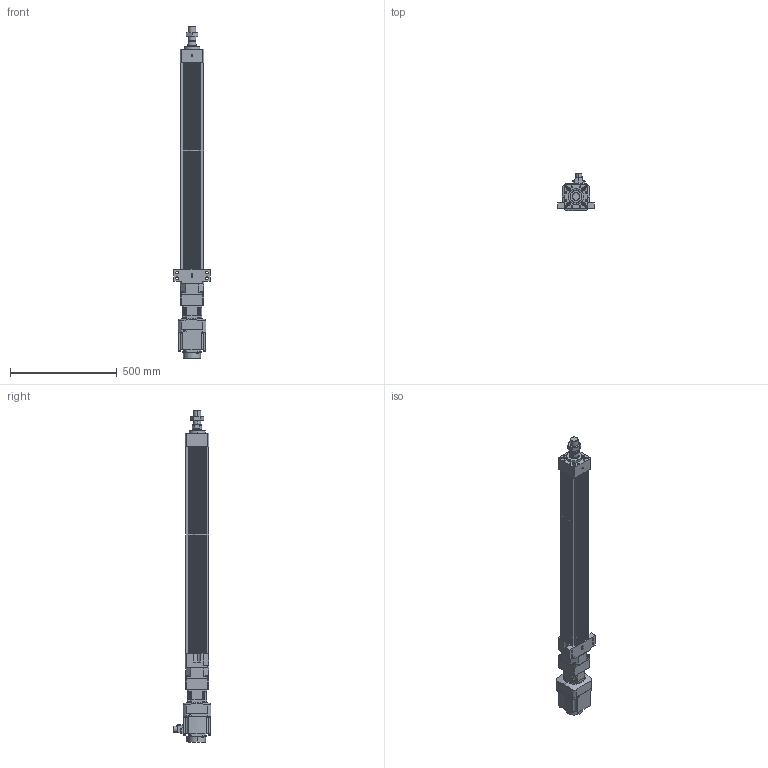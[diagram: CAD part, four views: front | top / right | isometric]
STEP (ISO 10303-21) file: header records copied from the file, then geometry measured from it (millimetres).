
FILE_DESCRIPTION (( 'STEP AP203' ), '1' );
FILE_NAME ('HES110NS(HS)-S800-W010G00-M-FFC.STEP', '2023-01-27T07:00:12', ( 'tms' ), ( '' ), 'SwSTEP 2.0', 'SolidWorks 2013', '' );
FILE_SCHEMA (( 'CONFIG_CONTROL_DESIGN' ));
Length unit declared in the file: millimetre
Products named in the file (8): M36X1.5P; HES110-S800-G090-FFC; HES110NS(HS)-S800-W010G00-M-FFC; HG-SR102; HES110 ROD M ST800; AB0901; AB090-003[HG-SR102B]; P0401301004
Assembly tree (7 placements, depth 3):
  HES110NS(HS)-S800-W010G00-M-FFC
    HES110-S800-G090-FFC
    HES110 ROD M ST800
    M36X1.5P
    AB090-003[HG-SR102B]
      AB0901
      P0401301004
    HG-SR102
Bounding box: 170 x 177.49 x 1558.5 mm (x, y, z)
Volume: 9973440.5 mm3; surface area: 1420964.6 mm2
Topology: 4 solids, 15 shells, 1217 faces, 3075 edges, 1984 vertices
Faces by surface type: plane 556, cylinder 547, cone 102, bspline 8, torus 4
Entity records: 38420 total; most frequent: CARTESIAN_POINT 7442, DIRECTION 6626, ORIENTED_EDGE 6054, EDGE_CURVE 3037, AXIS2_PLACEMENT_3D 2439, VERTEX_POINT 1984, LINE 1748, VECTOR 1748
